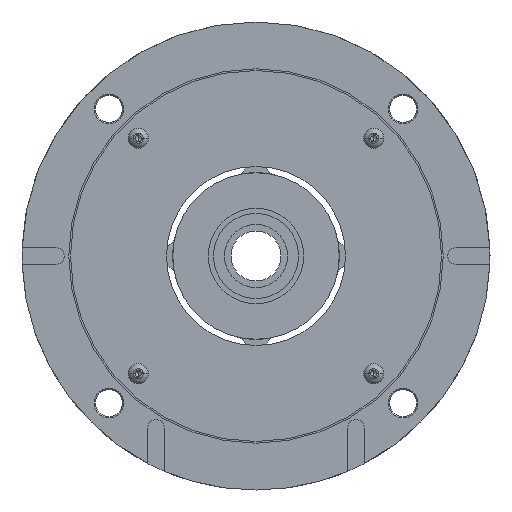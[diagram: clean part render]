
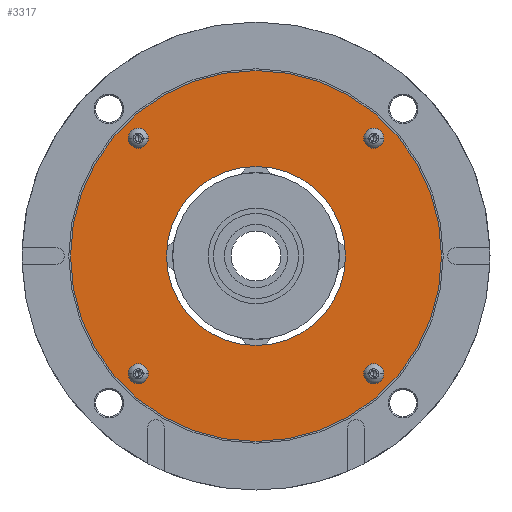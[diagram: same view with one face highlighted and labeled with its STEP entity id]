
A CAD part, front view. The second image highlights one B-rep face of the part: STEP entity #3317.
In plain terms, the highlighted planar face has unit normal (0, -1, 0).
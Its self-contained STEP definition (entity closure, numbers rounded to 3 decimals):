
#3 = DIRECTION ( 'NONE',  ( 0., 0., 1. ) ) ;
#23 = DIRECTION ( 'NONE',  ( 0., 0., 1. ) ) ;
#73 = AXIS2_PLACEMENT_3D ( 'NONE', #2430, #10222, #9086 ) ;
#165 = CARTESIAN_POINT ( 'NONE',  ( -44.901, 0., 44.901 ) ) ;
#270 = VERTEX_POINT ( 'NONE', #14141 ) ;
#348 = CARTESIAN_POINT ( 'NONE',  ( 44.901, 0., -44.901 ) ) ;
#378 = EDGE_LOOP ( 'NONE', ( #5121, #1338 ) ) ;
#515 = CIRCLE ( 'NONE', #982, 70.75 ) ;
#540 = CIRCLE ( 'NONE', #12443, 2.15 ) ;
#681 = ORIENTED_EDGE ( 'NONE', *, *, #6600, .T. ) ;
#741 = DIRECTION ( 'NONE',  ( 0., 1., 0. ) ) ;
#767 = CIRCLE ( 'NONE', #8773, 2.15 ) ;
#825 = FACE_BOUND ( 'NONE', #378, .T. ) ;
#904 = FACE_OUTER_BOUND ( 'NONE', #8720, .T. ) ;
#982 = AXIS2_PLACEMENT_3D ( 'NONE', #10694, #9621, #8537 ) ;
#1104 = DIRECTION ( 'NONE',  ( 0., 1., 0. ) ) ;
#1315 = AXIS2_PLACEMENT_3D ( 'NONE', #10627, #741, #7402 ) ;
#1318 = DIRECTION ( 'NONE',  ( 0., 0., 1. ) ) ;
#1338 = ORIENTED_EDGE ( 'NONE', *, *, #7181, .T. ) ;
#1549 = EDGE_CURVE ( 'NONE', #1640, #5786, #11394, .T. ) ;
#1640 = VERTEX_POINT ( 'NONE', #11563 ) ;
#2114 = CIRCLE ( 'NONE', #8271, 2.15 ) ;
#2143 = CARTESIAN_POINT ( 'NONE',  ( 44.901, 0., 44.901 ) ) ;
#2243 = CARTESIAN_POINT ( 'NONE',  ( 44.901, 0., 42.751 ) ) ;
#2362 = DIRECTION ( 'NONE',  ( 0., 0., 1. ) ) ;
#2430 = CARTESIAN_POINT ( 'NONE',  ( 44.901, 0., 44.901 ) ) ;
#2474 = CARTESIAN_POINT ( 'NONE',  ( -44.901, 0., 44.901 ) ) ;
#2527 = CARTESIAN_POINT ( 'NONE',  ( 44.901, 0., -47.051 ) ) ;
#2583 = VERTEX_POINT ( 'NONE', #7252 ) ;
#2584 = VERTEX_POINT ( 'NONE', #2961 ) ;
#2961 = CARTESIAN_POINT ( 'NONE',  ( -44.901, 0., -47.051 ) ) ;
#2980 = VERTEX_POINT ( 'NONE', #13301 ) ;
#2985 = FACE_BOUND ( 'NONE', #9206, .T. ) ;
#3159 = DIRECTION ( 'NONE',  ( 0., 1., 0. ) ) ;
#3317 = ADVANCED_FACE ( 'NONE', ( #825, #7484, #11860, #6411, #904, #2985 ), #8417, .F. ) ;
#3348 = DIRECTION ( 'NONE',  ( 0., 0., 1. ) ) ;
#3414 = CIRCLE ( 'NONE', #3427, 70.75 ) ;
#3427 = AXIS2_PLACEMENT_3D ( 'NONE', #10425, #4919, #8059 ) ;
#3868 = ORIENTED_EDGE ( 'NONE', *, *, #4809, .F. ) ;
#4201 = EDGE_CURVE ( 'NONE', #2583, #270, #3414, .T. ) ;
#4229 = CARTESIAN_POINT ( 'NONE',  ( 44.901, 0., -44.901 ) ) ;
#4304 = EDGE_CURVE ( 'NONE', #5786, #1640, #13012, .T. ) ;
#4419 = DIRECTION ( 'NONE',  ( 0., 0., 1. ) ) ;
#4434 = CARTESIAN_POINT ( 'NONE',  ( 0., 0., 34.15 ) ) ;
#4476 = CARTESIAN_POINT ( 'NONE',  ( 44.901, 0., 47.051 ) ) ;
#4490 = DIRECTION ( 'NONE',  ( 0., 1., 0. ) ) ;
#4790 = EDGE_CURVE ( 'NONE', #2584, #2980, #6676, .T. ) ;
#4809 = EDGE_CURVE ( 'NONE', #270, #2583, #515, .T. ) ;
#4919 = DIRECTION ( 'NONE',  ( 0., 1., 0. ) ) ;
#4951 = EDGE_CURVE ( 'NONE', #2980, #2584, #2114, .T. ) ;
#5034 = EDGE_CURVE ( 'NONE', #12604, #8822, #10340, .T. ) ;
#5054 = ORIENTED_EDGE ( 'NONE', *, *, #4201, .F. ) ;
#5121 = ORIENTED_EDGE ( 'NONE', *, *, #6782, .T. ) ;
#5198 = CARTESIAN_POINT ( 'NONE',  ( 0., 0., 0. ) ) ;
#5529 = ORIENTED_EDGE ( 'NONE', *, *, #1549, .T. ) ;
#5786 = VERTEX_POINT ( 'NONE', #4434 ) ;
#6042 = CIRCLE ( 'NONE', #11531, 2.15 ) ;
#6149 = AXIS2_PLACEMENT_3D ( 'NONE', #5198, #13005, #14029 ) ;
#6208 = ORIENTED_EDGE ( 'NONE', *, *, #10329, .T. ) ;
#6397 = CARTESIAN_POINT ( 'NONE',  ( 44.901, 0., -42.751 ) ) ;
#6411 = FACE_BOUND ( 'NONE', #11262, .T. ) ;
#6564 = DIRECTION ( 'NONE',  ( 0., 1., 0. ) ) ;
#6600 = EDGE_CURVE ( 'NONE', #8079, #7609, #767, .T. ) ;
#6676 = CIRCLE ( 'NONE', #10579, 2.15 ) ;
#6701 = CIRCLE ( 'NONE', #73, 2.15 ) ;
#6713 = EDGE_CURVE ( 'NONE', #7609, #8079, #540, .T. ) ;
#6782 = EDGE_CURVE ( 'NONE', #10253, #10745, #6701, .T. ) ;
#6820 = AXIS2_PLACEMENT_3D ( 'NONE', #10797, #12800, #7420 ) ;
#7181 = EDGE_CURVE ( 'NONE', #10745, #10253, #6042, .T. ) ;
#7221 = AXIS2_PLACEMENT_3D ( 'NONE', #2474, #11061, #1318 ) ;
#7245 = CARTESIAN_POINT ( 'NONE',  ( -44.901, 0., 42.751 ) ) ;
#7252 = CARTESIAN_POINT ( 'NONE',  ( 0., 0., -70.75 ) ) ;
#7402 = DIRECTION ( 'NONE',  ( 0., 0., 1. ) ) ;
#7420 = DIRECTION ( 'NONE',  ( 0., 0., 1. ) ) ;
#7484 = FACE_BOUND ( 'NONE', #12892, .T. ) ;
#7609 = VERTEX_POINT ( 'NONE', #6397 ) ;
#8059 = DIRECTION ( 'NONE',  ( 0., 0., 1. ) ) ;
#8079 = VERTEX_POINT ( 'NONE', #2527 ) ;
#8104 = EDGE_LOOP ( 'NONE', ( #12158, #13334 ) ) ;
#8271 = AXIS2_PLACEMENT_3D ( 'NONE', #13160, #4490, #3348 ) ;
#8417 = PLANE ( 'NONE',  #6149 ) ;
#8537 = DIRECTION ( 'NONE',  ( 0., 0., 1. ) ) ;
#8720 = EDGE_LOOP ( 'NONE', ( #5054, #3868 ) ) ;
#8773 = AXIS2_PLACEMENT_3D ( 'NONE', #4229, #3159, #8796 ) ;
#8796 = DIRECTION ( 'NONE',  ( 0., 0., 1. ) ) ;
#8822 = VERTEX_POINT ( 'NONE', #13690 ) ;
#9058 = ORIENTED_EDGE ( 'NONE', *, *, #6713, .T. ) ;
#9086 = DIRECTION ( 'NONE',  ( 0., 0., 1. ) ) ;
#9206 = EDGE_LOOP ( 'NONE', ( #5529, #10233 ) ) ;
#9520 = CIRCLE ( 'NONE', #7221, 2.15 ) ;
#9621 = DIRECTION ( 'NONE',  ( 0., 1., 0. ) ) ;
#9820 = CARTESIAN_POINT ( 'NONE',  ( -44.901, 0., -44.901 ) ) ;
#9885 = DIRECTION ( 'NONE',  ( 0., 1., 0. ) ) ;
#10222 = DIRECTION ( 'NONE',  ( 0., 1., 0. ) ) ;
#10233 = ORIENTED_EDGE ( 'NONE', *, *, #4304, .T. ) ;
#10253 = VERTEX_POINT ( 'NONE', #4476 ) ;
#10329 = EDGE_CURVE ( 'NONE', #8822, #12604, #9520, .T. ) ;
#10340 = CIRCLE ( 'NONE', #13099, 2.15 ) ;
#10425 = CARTESIAN_POINT ( 'NONE',  ( 0., 0., 0. ) ) ;
#10579 = AXIS2_PLACEMENT_3D ( 'NONE', #9820, #9885, #3 ) ;
#10627 = CARTESIAN_POINT ( 'NONE',  ( 0., 0., 0. ) ) ;
#10694 = CARTESIAN_POINT ( 'NONE',  ( 0., 0., 0. ) ) ;
#10745 = VERTEX_POINT ( 'NONE', #2243 ) ;
#10797 = CARTESIAN_POINT ( 'NONE',  ( 0., 0., 0. ) ) ;
#11061 = DIRECTION ( 'NONE',  ( 0., 1., 0. ) ) ;
#11262 = EDGE_LOOP ( 'NONE', ( #9058, #681 ) ) ;
#11394 = CIRCLE ( 'NONE', #1315, 34.15 ) ;
#11531 = AXIS2_PLACEMENT_3D ( 'NONE', #2143, #6564, #4419 ) ;
#11563 = CARTESIAN_POINT ( 'NONE',  ( 0., 0., -34.15 ) ) ;
#11860 = FACE_BOUND ( 'NONE', #8104, .T. ) ;
#12087 = ORIENTED_EDGE ( 'NONE', *, *, #5034, .T. ) ;
#12158 = ORIENTED_EDGE ( 'NONE', *, *, #4951, .T. ) ;
#12443 = AXIS2_PLACEMENT_3D ( 'NONE', #348, #13539, #2362 ) ;
#12604 = VERTEX_POINT ( 'NONE', #7245 ) ;
#12800 = DIRECTION ( 'NONE',  ( 0., 1., 0. ) ) ;
#12892 = EDGE_LOOP ( 'NONE', ( #6208, #12087 ) ) ;
#13005 = DIRECTION ( 'NONE',  ( 0., 1., 0. ) ) ;
#13012 = CIRCLE ( 'NONE', #6820, 34.15 ) ;
#13099 = AXIS2_PLACEMENT_3D ( 'NONE', #165, #1104, #23 ) ;
#13160 = CARTESIAN_POINT ( 'NONE',  ( -44.901, 0., -44.901 ) ) ;
#13301 = CARTESIAN_POINT ( 'NONE',  ( -44.901, 0., -42.751 ) ) ;
#13334 = ORIENTED_EDGE ( 'NONE', *, *, #4790, .T. ) ;
#13539 = DIRECTION ( 'NONE',  ( 0., 1., 0. ) ) ;
#13690 = CARTESIAN_POINT ( 'NONE',  ( -44.901, 0., 47.051 ) ) ;
#14029 = DIRECTION ( 'NONE',  ( 0., 0., 1. ) ) ;
#14141 = CARTESIAN_POINT ( 'NONE',  ( 0., 0., 70.75 ) ) ;
